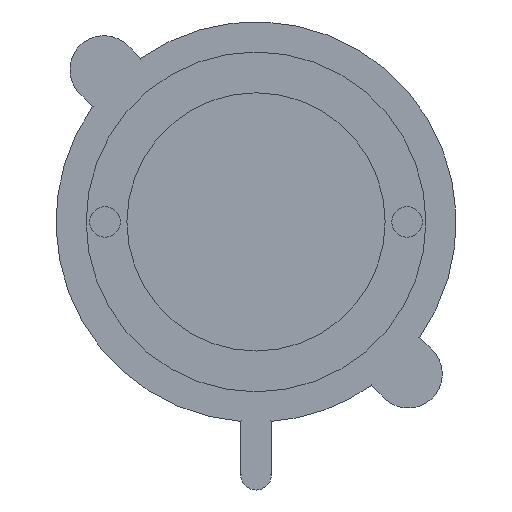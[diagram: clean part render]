
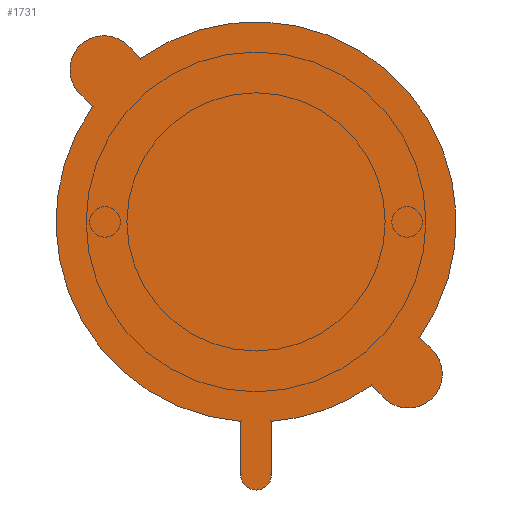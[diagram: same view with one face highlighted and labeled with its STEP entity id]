
A CAD part, top view. The second image highlights one B-rep face of the part: STEP entity #1731.
In plain terms, the highlighted planar face has unit normal (0, 0, 1).
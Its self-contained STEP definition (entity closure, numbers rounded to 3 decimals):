
#706=PLANE('',#11627);
#1096=FACE_OUTER_BOUND('',#4438,.T.);
#1731=ADVANCED_FACE('',(#1096),#706,.T.);
#2557=LINE('',#20931,#3236);
#2559=LINE('',#20937,#3238);
#2572=LINE('',#20991,#3251);
#2575=LINE('',#20999,#3254);
#2577=LINE('',#21003,#3256);
#2579=LINE('',#21009,#3258);
#3236=VECTOR('',#13410,1.);
#3238=VECTOR('',#13418,1.);
#3251=VECTOR('',#13481,1.);
#3254=VECTOR('',#13490,1.);
#3256=VECTOR('',#13494,1.);
#3258=VECTOR('',#13502,1.);
#4438=EDGE_LOOP('',(#6436,#6437,#6438,#6439,#6440,#6441,#6442,#6443,#6444,
#6445,#6446,#6447));
#6436=ORIENTED_EDGE('',*,*,#9517,.F.);
#6437=ORIENTED_EDGE('',*,*,#9519,.F.);
#6438=ORIENTED_EDGE('',*,*,#9520,.F.);
#6439=ORIENTED_EDGE('',*,*,#9492,.F.);
#6440=ORIENTED_EDGE('',*,*,#9547,.F.);
#6441=ORIENTED_EDGE('',*,*,#9545,.F.);
#6442=ORIENTED_EDGE('',*,*,#9543,.F.);
#6443=ORIENTED_EDGE('',*,*,#9490,.F.);
#6444=ORIENTED_EDGE('',*,*,#9549,.F.);
#6445=ORIENTED_EDGE('',*,*,#9551,.F.);
#6446=ORIENTED_EDGE('',*,*,#9552,.F.);
#6447=ORIENTED_EDGE('',*,*,#9496,.F.);
#8279=VERTEX_POINT('',#20852);
#8280=VERTEX_POINT('',#20854);
#8281=VERTEX_POINT('',#20861);
#8282=VERTEX_POINT('',#20862);
#8283=VERTEX_POINT('',#20876);
#8284=VERTEX_POINT('',#20878);
#8299=VERTEX_POINT('',#20930);
#8300=VERTEX_POINT('',#20934);
#8317=VERTEX_POINT('',#20992);
#8318=VERTEX_POINT('',#20996);
#8319=VERTEX_POINT('',#21002);
#8320=VERTEX_POINT('',#21006);
#9490=EDGE_CURVE('',#8279,#8280,#10939,.T.);
#9492=EDGE_CURVE('',#8281,#8282,#10940,.T.);
#9496=EDGE_CURVE('',#8283,#8284,#10941,.T.);
#9517=EDGE_CURVE('',#8299,#8283,#2557,.T.);
#9519=EDGE_CURVE('',#8300,#8299,#10954,.T.);
#9520=EDGE_CURVE('',#8282,#8300,#2559,.T.);
#9543=EDGE_CURVE('',#8280,#8317,#2572,.T.);
#9545=EDGE_CURVE('',#8317,#8318,#10965,.T.);
#9547=EDGE_CURVE('',#8318,#8281,#2575,.T.);
#9549=EDGE_CURVE('',#8319,#8279,#2577,.T.);
#9551=EDGE_CURVE('',#8320,#8319,#10966,.T.);
#9552=EDGE_CURVE('',#8284,#8320,#2579,.T.);
#10939=CIRCLE('',#11558,26.5);
#10940=CIRCLE('',#11560,26.5);
#10941=CIRCLE('',#11562,26.5);
#10954=CIRCLE('',#11590,2.05);
#10965=CIRCLE('',#11618,4.5);
#10966=CIRCLE('',#11622,4.5);
#11558=AXIS2_PLACEMENT_3D('',#20853,#13341,#13342);
#11560=AXIS2_PLACEMENT_3D('',#20860,#13345,#13346);
#11562=AXIS2_PLACEMENT_3D('',#20877,#13349,#13350);
#11590=AXIS2_PLACEMENT_3D('',#20935,#13414,#13415);
#11618=AXIS2_PLACEMENT_3D('',#20995,#13485,#13486);
#11622=AXIS2_PLACEMENT_3D('',#21007,#13498,#13499);
#11627=AXIS2_PLACEMENT_3D('',#21013,#13509,#13510);
#13341=DIRECTION('',(0.,0.,-1.));
#13342=DIRECTION('',(1.,0.,0.));
#13345=DIRECTION('',(0.,0.,-1.));
#13346=DIRECTION('',(1.,0.,0.));
#13349=DIRECTION('',(0.,0.,-1.));
#13350=DIRECTION('',(1.,0.,0.));
#13410=DIRECTION('',(0.,1.,0.));
#13414=DIRECTION('',(0.,0.,-1.));
#13415=DIRECTION('',(1.,0.,0.));
#13418=DIRECTION('',(0.,-1.,0.));
#13481=DIRECTION('',(0.707,-0.707,0.));
#13485=DIRECTION('',(0.,0.,-1.));
#13486=DIRECTION('',(1.,0.,0.));
#13490=DIRECTION('',(-0.707,0.707,0.));
#13494=DIRECTION('',(0.707,-0.707,0.));
#13498=DIRECTION('',(0.,0.,-1.));
#13499=DIRECTION('',(1.,0.,0.));
#13502=DIRECTION('',(-0.707,0.707,0.));
#13509=DIRECTION('',(0.,0.,1.));
#13510=DIRECTION('',(1.,0.,0.));
#20852=CARTESIAN_POINT('',(-15.784,20.898,52.667));
#20853=CARTESIAN_POINT('',(-0.5,-0.75,52.667));
#20854=CARTESIAN_POINT('',(21.148,-16.034,52.667));
#20860=CARTESIAN_POINT('',(-0.5,-0.75,52.667));
#20861=CARTESIAN_POINT('',(14.784,-22.398,52.667));
#20862=CARTESIAN_POINT('',(1.55,-27.171,52.667));
#20876=CARTESIAN_POINT('',(-2.55,-27.171,52.667));
#20877=CARTESIAN_POINT('',(-0.5,-0.75,52.667));
#20878=CARTESIAN_POINT('',(-22.148,14.534,52.667));
#20930=CARTESIAN_POINT('',(-2.55,-34.2,52.667));
#20931=CARTESIAN_POINT('',(-2.55,-27.205,52.667));
#20934=CARTESIAN_POINT('',(1.55,-34.2,52.667));
#20935=CARTESIAN_POINT('',(-0.5,-34.2,52.667));
#20937=CARTESIAN_POINT('',(1.55,-34.2,52.667));
#20991=CARTESIAN_POINT('',(2.682,2.432,52.667));
#20992=CARTESIAN_POINT('',(22.835,-17.721,52.667));
#20995=CARTESIAN_POINT('',(19.653,-20.903,52.667));
#20996=CARTESIAN_POINT('',(16.471,-24.085,52.667));
#20999=CARTESIAN_POINT('',(-3.682,-3.932,52.667));
#21002=CARTESIAN_POINT('',(-17.471,22.585,52.667));
#21003=CARTESIAN_POINT('',(2.682,2.432,52.667));
#21006=CARTESIAN_POINT('',(-23.835,16.221,52.667));
#21007=CARTESIAN_POINT('',(-20.653,19.403,52.667));
#21009=CARTESIAN_POINT('',(-3.682,-3.932,52.667));
#21013=CARTESIAN_POINT('',(-0.5,-0.75,52.667));
